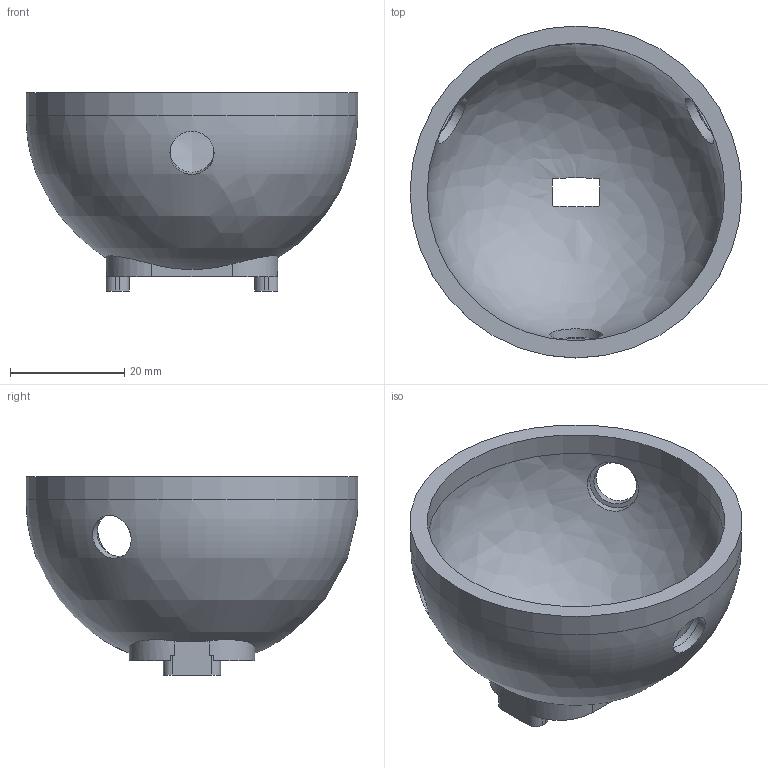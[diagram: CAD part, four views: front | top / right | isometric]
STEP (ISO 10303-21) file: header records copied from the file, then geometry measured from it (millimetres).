
FILE_DESCRIPTION(('Open CASCADE Model'),'2;1');
FILE_NAME('Open CASCADE Shape Model','2026-05-31T19:43:36',('Author'),( 'Open CASCADE'),'Open CASCADE STEP processor 7.6','Open CASCADE 7.6' ,'Unknown');
FILE_SCHEMA(('AP242_MANAGED_MODEL_BASED_3D_ENGINEERING_MIM_LF. {1 0 10303 442 1 1 4 }'));
Length unit declared in the file: millimetre
Products named in the file (1): Open CASCADE STEP translator 7.6 22
Bounding box: 58 x 58 x 34.6 mm (x, y, z)
Volume: 16119.1 mm3; surface area: 11821.9 mm2
Topology: 1 solids, 1 shells, 71 faces, 194 edges, 128 vertices
Faces by surface type: plane 35, cylinder 28, bspline 4, revolution 2, cone 2
Full cylindrical faces by diameter (mm): 2.05 x2, 7.7 x3, 9.2 x3, 52 x1, 58 x1
Entity records: 8212 total; most frequent: CARTESIAN_POINT 4394, DIRECTION 702, ORIENTED_EDGE 384, PCURVE 384, DEFINITIONAL_REPRESENTATION 384, LINE 382, VECTOR 382, EDGE_CURVE 192
